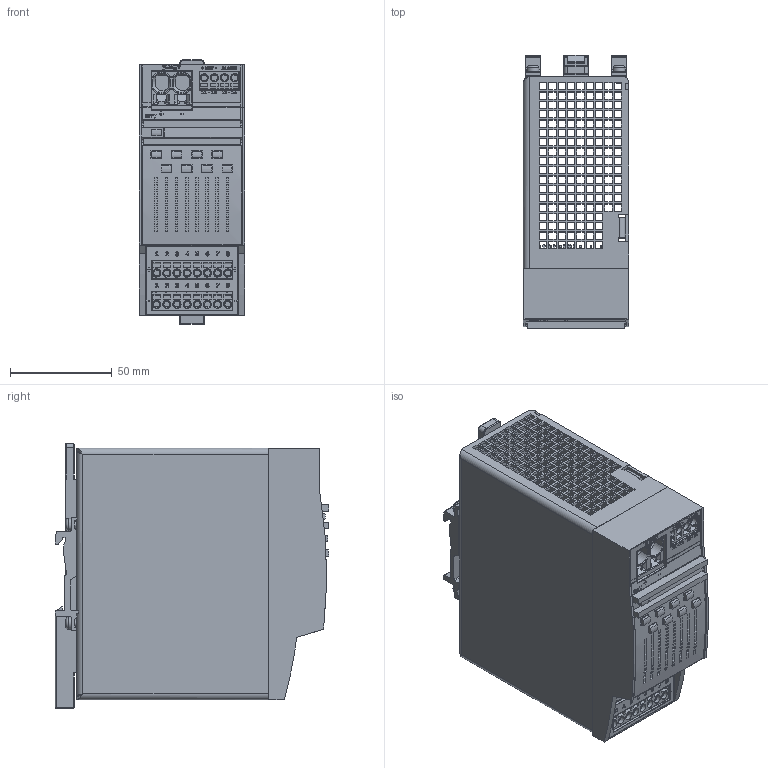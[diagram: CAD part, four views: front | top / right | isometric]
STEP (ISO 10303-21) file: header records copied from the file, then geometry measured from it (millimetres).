
FILE_DESCRIPTION(/* description */ (''),/* implementation_level */ '2;1');
FILE_NAME(/* name */ 'C:\Vault-Work\Vault\Designs\MARKETING\Internet\400-449\432.00\md3_PISA_B_8CL2_B1.dxf.stp',/* time_stamp */ '2021-02-02T22:47:38+01:00',/* author */ ('Huhn'),/* organization */ (''),/* preprocessor_version */ 'ST-DEVELOPER v18.1',/* originating_system */ 'Autodesk Inventor 2020',/* authorisation */ '');
FILE_SCHEMA (('AUTOMOTIVE_DESIGN { 1 0 10303 214 3 1 1 }'));
Products named in the file (14): 432.02; HOUSING BODY 432.00_1; HOUSING BODY 432.00_2; HOUSING COVER 432.00; BUS Grey 432.00; FRONT FOIL2 432.02; FRONT FOIL3 432.00; MKT_SLIDER; MKT_T HOLDER1; MKT_SCREW 3x6; KO-07000073-272 Push-In Connector 4-fach SPT 2,5_8 Phoenix 1991150; XT-LP2BK-E9; XT-LP8BK-E5; FRONT FOIL1 432.00
Assembly tree (19 placements, depth 2):
  432.02
    HOUSING BODY 432.00_1
    HOUSING BODY 432.00_2
    HOUSING COVER 432.00
    BUS Grey 432.00  x2
    FRONT FOIL2 432.02
    FRONT FOIL3 432.00
    MKT_SLIDER
    MKT_T HOLDER1  x2
    MKT_SCREW 3x6  x4
    KO-07000073-272 Push-In Connector 4-fach SPT 2,5_8 Phoenix 1991150
    XT-LP2BK-E9
    XT-LP8BK-E5  x2
    FRONT FOIL1 432.00
Bounding box: 52 x 134.75 x 130.5 mm (x, y, z)
Volume: 126334.7 mm3; surface area: 143786.4 mm2
Topology: 22 solids, 22 shells, 4298 faces, 11869 edges, 7910 vertices
Faces by surface type: plane 3302, bspline 447, cylinder 425, cone 100, torus 16, sphere 8
Full cylindrical faces by diameter (mm): 0.457 x3, 1 x36, 1.1 x40, 1.5 x18, 2.45 x2, 3 x4, 3.1 x4, 3.55 x2, 4 x20, 4.27 x1, 6 x4
Entity records: 129386 total; most frequent: CARTESIAN_POINT 32589, ORIENTED_EDGE 20750, DIRECTION 17453, EDGE_CURVE 10375, LINE 8093, VECTOR 8093, VERTEX_POINT 6894, EDGE_LOOP 4723
